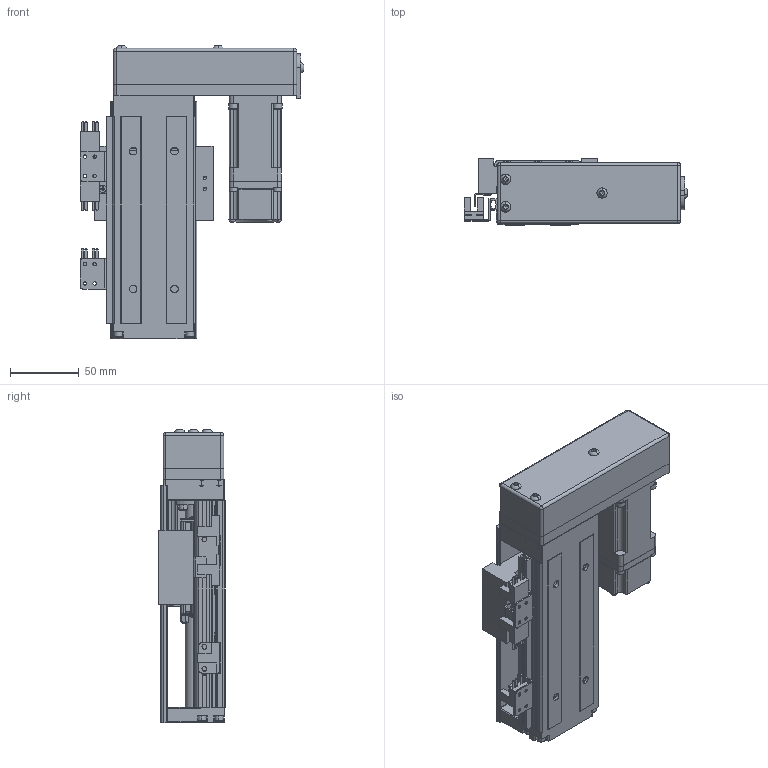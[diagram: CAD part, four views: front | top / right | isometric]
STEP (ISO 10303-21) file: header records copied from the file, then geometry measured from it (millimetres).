
FILE_DESCRIPTION (( 'STEP AP214' ), '1' );
FILE_NAME ('SFKK60-150A1-HL0C.STEP', '2022-05-03T07:53:09', ( '微软用户' ), ( '微软中国' ), 'SwSTEP 2.0', 'SolidWorks 2018', '' );
FILE_SCHEMA (( 'AUTOMOTIVE_DESIGN' ));
Length unit declared in the file: millimetre
Products named in the file (12): SFKK60-A1-C; SX674嫖萇羲壽; 极限轨道与开关固定座组合_150; SFKK60-LR 憤癹寢耋_150; SFKK60-150A1-HL0C; SFKK60-H0-P10侂狟100W耜蚾; 带盖挡光片：KK-60-S2-D1; SFKK-60-CU_150; 开关固定座：KK-674S2-F; hexagon socket countersunk head screws gb_GB_FASTENER_SCREWS_HSCHS M3X8-N; SFKK60-H0_150; 蚐郲
Assembly tree (17 placements, depth 3):
  SFKK60-150A1-HL0C
    SFKK60-H0_150
    SFKK60-A1-C
    蚐郲
    SFKK-60-CU_150
    hexagon socket countersunk head screws gb_GB_FASTENER_SCREWS_HSCHS M3X8-N  x4
    带盖挡光片：KK-60-S2-D1
    极限轨道与开关固定座组合_150
      SFKK60-LR 憤癹寢耋_150
      开关固定座：KK-674S2-F  x2
    SX674嫖萇羲壽  x3
    SFKK60-H0-P10侂狟100W耜蚾
Bounding box: 162.2 x 48 x 212.7 mm (x, y, z)
Volume: 337482.9 mm3; surface area: 230763.9 mm2
Topology: 40 solids, 69 shells, 4196 faces, 10490 edges, 6496 vertices
Faces by surface type: cylinder 1619, plane 1486, cone 883, torus 91, bspline 91, sphere 26
Entity records: 164886 total; most frequent: CARTESIAN_POINT 29321, DIRECTION 20884, ORIENTED_EDGE 19696, EDGE_CURVE 9910, AXIS2_PLACEMENT_3D 7746, VERTEX_POINT 6199, VECTOR 5392, LINE 5392
